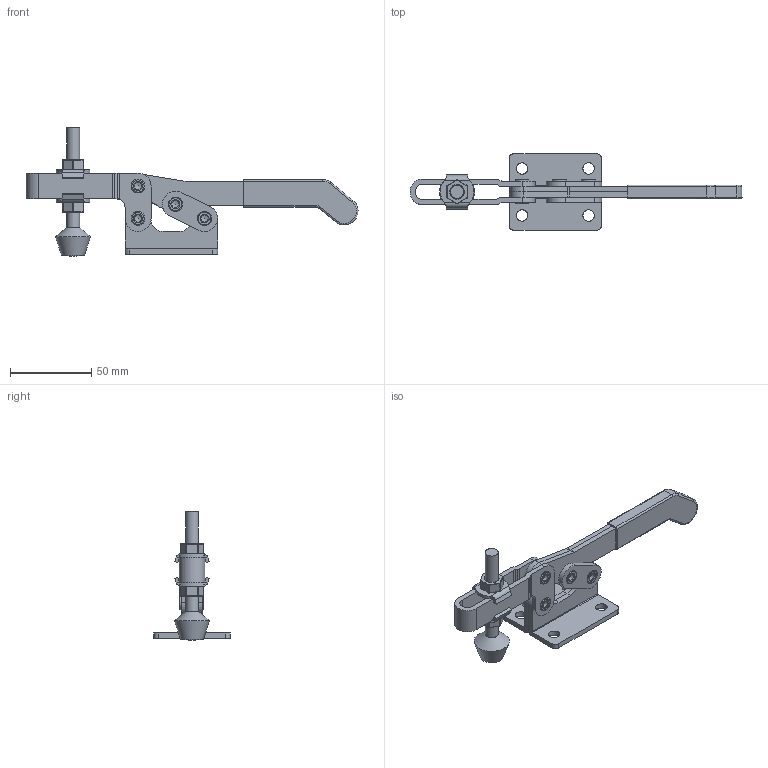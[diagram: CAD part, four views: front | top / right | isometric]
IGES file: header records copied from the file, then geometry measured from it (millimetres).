
Global section: file name: DR_023-21F; native system: Autodesk Inventor 2015; preprocessor: unknown; author: Administrator; date: 20180302.150709; units: millimetre
Bounding box: 204.48 x 47 x 79 mm (x, y, z)
Volume: 55765.5 mm3; surface area: 45525.3 mm2
Topology: 12 solids, 12 shells, 328 faces, 817 edges, 523 vertices
Faces by surface type: bspline 328
